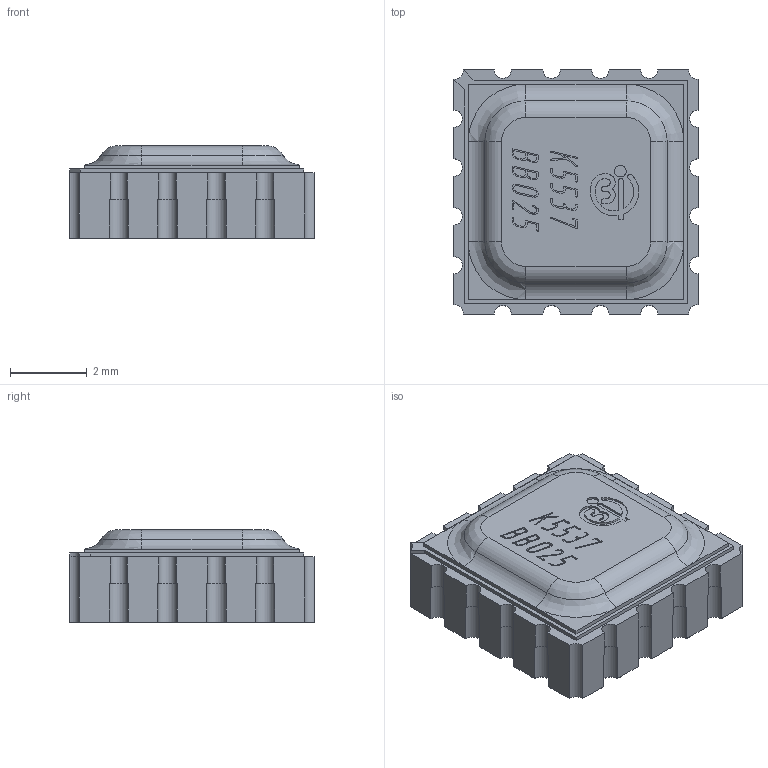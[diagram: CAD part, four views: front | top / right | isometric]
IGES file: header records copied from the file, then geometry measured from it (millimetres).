
Start section: IGES file generated from Kompas 1.1 for Windows drawing by the IGES translator from Ascon Ltd., translator version IGESOUT-5.1.
Global section: file name: D:\Work\3D\5130.16-AH3\K5537BB025.igs; native system: Kompas( 32 bit ) for Windows; preprocessor: 1.0; author: Âîðîíîâ; organization: unknown; date: -17811120:055136; units: millimetre
Bounding box: 6.35 x 6.35 x 2.4 mm (x, y, z)
Volume: 83 mm3; surface area: 286.4 mm2
Topology: 19 solids, 19 shells, 865 faces, 2414 edges, 1604 vertices
Faces by surface type: bspline 746, revolution 109, extrusion 10
